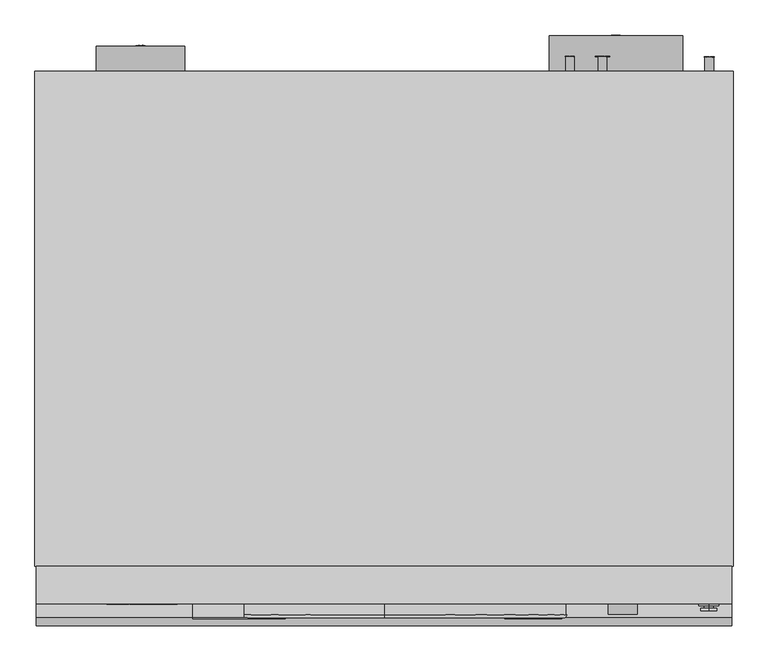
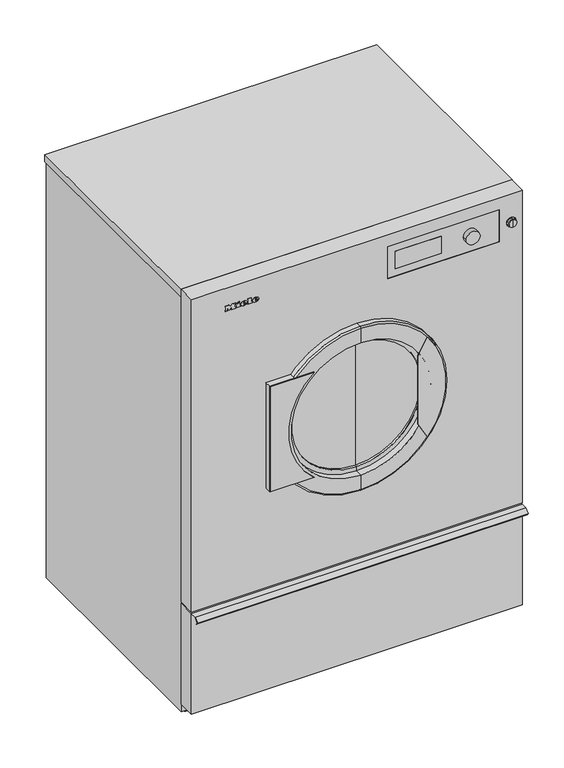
"""IFC4 building model written with IfcOpenShell, lengths in millimetres: proxy geometry, 11795780_EU_PDR528ROPEL_SST : 52528005_EU_11795780_PDR528ROPEL_SST."""

from ifc_helpers import new_model, si_unit, point, frame, frame_2d, origin, origin_with_axes, place, context, project, spatial, polyline, circle_curve, ellipse_curve, trimmed, segment, composite_curve, outline, extrude, faceted_brep, source, transform, mapped, element, save
from ifc_brep_helpers import plane_surface, cylinder_surface, revolved_surface, extruded_surface, advanced_brep


def specialty_equipment_0d103cda(model_context):
    return source(origin(), model_context, "Body", "SolidModel", [
        advanced_brep(
        [(560.0, -992.0, 1533.0), (560.0, -992.0, 1547.0), (560.0, -992.0, 1519.0), (560.0, -988.0, 1519.0), (560.0, -988.0, 1547.0), (560.0, -988.0, 1541.0), (560.0, -988.0, 1525.0), (560.0, -980.0, 1516.0), (560.0, -980.0, 1550.0), (560.0, -980.0, 1533.0), (560.0, -983.0, 1516.0), (560.0, -983.0, 1550.0), (560.0, -983.0, 1525.0), (560.0, -983.0, 1541.0)],
        [
            (0, 1),
            (1, 2, circle_curve(frame((560.0, -992.0, 1533.0), z_axis=(0.0, -1.0, 0.0), x_axis=(0.0, 0.0, 1.0)), 14.0)),
            (2, 0),
            (2, 1, circle_curve(frame((560.0, -992.0, 1533.0), z_axis=(0.0, -1.0, 0.0), x_axis=(0.0, 0.0, 1.0)), 14.0)),
            (3, 4, circle_curve(frame((560.0, -988.0, 1533.0), z_axis=(0.0, 1.0, 0.0), x_axis=(0.0, 0.0, 1.0)), 14.0)),
            (4, 5),
            (5, 6, circle_curve(frame((560.0, -988.0, 1533.0), z_axis=(0.0, -1.0, 0.0), x_axis=(0.0, 0.0, 1.0)), 8.0)),
            (6, 3),
            (7, 8, circle_curve(frame((560.0, -980.0, 1533.0), z_axis=(0.0, 1.0, 0.0), x_axis=(0.0, 0.0, 1.0)), 17.0)),
            (8, 9),
            (9, 7),
            (8, 7, circle_curve(frame((560.0, -980.0, 1533.0), z_axis=(0.0, 1.0, 0.0), x_axis=(0.0, 0.0, 1.0)), 17.0)),
            (10, 11, circle_curve(frame((560.0, -983.0, 1533.0), z_axis=(0.0, 1.0, 0.0), x_axis=(0.0, 0.0, 1.0)), 17.0)),
            (11, 8),
            (7, 10),
            (11, 10, circle_curve(frame((560.0, -983.0, 1533.0), z_axis=(0.0, 1.0, 0.0), x_axis=(0.0, 0.0, 1.0)), 17.0)),
            (12, 13, circle_curve(frame((560.0, -983.0, 1533.0), z_axis=(0.0, 1.0, 0.0), x_axis=(0.0, 0.0, 1.0)), 8.0)),
            (13, 11),
            (10, 12),
            (13, 12, circle_curve(frame((560.0, -983.0, 1533.0), z_axis=(0.0, 1.0, 0.0), x_axis=(0.0, 0.0, 1.0)), 8.0)),
            (5, 13),
            (12, 6),
            (5, 6, circle_curve(frame((560.0, -988.0, 1533.0), z_axis=(0.0, 1.0, 0.0), x_axis=(0.0, 0.0, 1.0)), 8.0)),
            (4, 3, circle_curve(frame((560.0, -988.0, 1533.0), z_axis=(0.0, 1.0, 0.0), x_axis=(0.0, 0.0, 1.0)), 14.0)),
            (1, 4),
            (3, 2),
        ],
        [
            plane_surface(frame((560.0, -992.0, 1533.0), z_axis=(0.0, -1.0, 0.0), x_axis=(0.0, 0.0, 1.0))),
            plane_surface(frame((560.0, -988.0, 1533.0), z_axis=(0.0, 1.0, 0.0), x_axis=(0.0, 0.0, 1.0))),
            plane_surface(frame((560.0, -980.0, 1533.0), z_axis=(0.0, 1.0, 0.0), x_axis=(0.0, 0.0, 1.0))),
            cylinder_surface(frame((560.0, -980.0, 1533.0), z_axis=(0.0, -1.0, 0.0), x_axis=(0.0, 0.0, 1.0)), 17.0),
            plane_surface(frame((560.0, -983.0, 1533.0), z_axis=(0.0, -1.0, 0.0), x_axis=(0.0, 0.0, 1.0))),
            cylinder_surface(frame((560.0, -980.0, 1533.0), z_axis=(0.0, -1.0, 0.0), x_axis=(0.0, 0.0, 1.0)), 8.0),
            cylinder_surface(frame((560.0, -980.0, 1533.0), z_axis=(0.0, -1.0, 0.0), x_axis=(0.0, 0.0, 1.0)), 14.0),
        ],
        [
            (0, [[1, 2, 3]]),
            (0, [[-3, 4, -1]]),
            (1, [[5, 6, 7, 8]]),
            (2, [[9, 10, 11]]),
            (2, [[12, -11, -10]]),
            (3, [[13, 14, -9, 15]]),
            (3, [[16, -15, -12, -14]]),
            (4, [[17, 18, -13, 19]]),
            (4, [[20, -19, -16, -18]]),
            (5, [[-7, 21, -17, 22]]),
            (5, [[23, -22, -20, -21]]),
            (1, [[24, -8, -23, -6]]),
            (6, [[-2, 25, -5, 26]]),
            (6, [[-4, -26, -24, -25]]),
        ],
    ),
        extrude(outline(composite_curve([segment(trimmed(circle_curve(frame_2d((1533.0, 412.0)), 25.0), [point((1533.0, 437.0))], [point((1533.0, 387.0))], False, "CARTESIAN"), True, "CONTINUOUS"), segment(trimmed(circle_curve(frame_2d((1533.0, 412.0)), 25.0), [point((1533.0, 387.0))], [point((1533.0, 437.0))], False, "CARTESIAN"), True, "CONTINUOUS")], self_intersect=False)), frame((0.0, -998.0, 0.0), z_axis=(0.0, 1.0, 0.0), x_axis=(0.0, 0.0, 1.0)), (0.0, 0.0, 1.0), 19.0),
        extrude(outline(polyline([(140.0, -979.0), (306.0, -979.0), (306.0, -980.0), (140.0, -980.0), (140.0, -979.0)])), frame((0.0, 0.0, 1500.0), z_axis=(0.0, 0.0, 1.0), x_axis=(1.0, 0.0, 0.0)), (0.0, 0.0, 1.0), 66.0),
        extrude(outline(polyline([(-980.0, 435.0), (-980.0, 434.0), (-1002.5857864, 434.0), (-1016.6380903, 419.9476961), (-1010.7136039, 413.0357953), (-1011.4728605, 412.3850039), (-1018.0, 420.0), (-1003.0, 435.0), (-980.0, 435.0)])), frame((-600.0, 0.0, 0.0), z_axis=(1.0, 0.0, 0.0), x_axis=(0.0, 1.0, 0.0)), (0.0, 0.0, 1.0), 1200.0),
        advanced_brep(
        [(517.0, -979.0, 1471.0), (113.0, -979.0, 1471.0), (113.0, -980.0, 1471.0), (517.0, -980.0, 1471.0), (600.0, -980.0, 1640.0), (-600.0, -980.0, 1640.0), (-600.0, -980.0, 440.0), (600.0, -980.0, 440.0), (283.0, -980.0, 1025.0), (-283.0, -980.0, 1025.0), (517.0, -980.0, 1594.0), (113.0, -980.0, 1594.0), (-600.0, -915.0, 1640.0), (-600.0, -915.0, 440.0), (600.0, -915.0, 1640.0), (-283.0, -915.0, 1025.0), (283.0, -915.0, 1025.0), (600.0, -915.0, 440.0), (517.0, -979.0, 1594.0), (113.0, -979.0, 1594.0)],
        [
            (0, 1),
            (1, 2),
            (2, 3),
            (3, 0),
            (4, 5),
            (5, 6),
            (6, 7),
            (7, 4),
            (8, 9, circle_curve(frame((0.0, -980.0, 1025.0), z_axis=(0.0, 1.0, 0.0), x_axis=(-1.0, 0.0, 0.0)), 283.0)),
            (9, 8, circle_curve(frame((0.0, -980.0, 1025.0), z_axis=(0.0, 1.0, 0.0), x_axis=(-1.0, 0.0, 0.0)), 283.0)),
            (10, 3),
            (2, 11),
            (11, 10),
            (5, 12),
            (12, 13),
            (13, 6),
            (4, 14),
            (14, 12),
            (15, 9),
            (8, 16),
            (16, 15, circle_curve(frame((0.0, -915.0, 1025.0), z_axis=(0.0, 1.0, 0.0), x_axis=(-1.0, 0.0, 0.0)), 283.0)),
            (14, 17),
            (17, 13),
            (16, 15, circle_curve(frame((0.0, -915.0, 1025.0), z_axis=(0.0, -1.0, 0.0), x_axis=(-1.0, 0.0, 0.0)), 283.0)),
            (7, 17),
            (18, 19),
            (19, 1),
            (0, 18),
            (10, 18),
            (19, 11),
        ],
        [
            plane_surface(frame((517.0, -979.0, 1471.0), z_axis=(0.0, 0.0, 1.0), x_axis=(0.0, -1.0, 0.0))),
            plane_surface(frame((600.0, -980.0, 1640.0), z_axis=(0.0, -1.0, 0.0), x_axis=(0.0, 0.0, 1.0))),
            plane_surface(frame((-600.0, -915.0, 48.0), z_axis=(-1.0, 0.0, 0.0), x_axis=(0.0, -1.0, 0.0))),
            plane_surface(frame((-600.0, -915.0, 1640.0), z_axis=(0.0, 0.0, 1.0), x_axis=(0.0, -1.0, 0.0))),
            revolved_surface(polyline([(-283.0, -915.0, 1025.0), (-283.0, -980.0, 1025.0)]), (0.0, -980.0, 1025.0), (0.0, 1.0, 0.0)),
            plane_surface(frame((600.0, -915.0, 1640.0), z_axis=(0.0, 1.0, 0.0), x_axis=(0.0, 0.0, -1.0))),
            plane_surface(frame((600.0, -915.0, 1640.0), z_axis=(1.0, 0.0, 0.0), x_axis=(0.0, -1.0, 0.0))),
            plane_surface(frame((-600.0, -915.0, 440.0), z_axis=(0.0, 0.0, -1.0), x_axis=(-1.0, 0.0, 0.0))),
            plane_surface(frame((306.0, -979.0, 1566.0), z_axis=(0.0, -1.0, 0.0), x_axis=(0.0, 0.0, -1.0))),
            plane_surface(frame((517.0, -979.0, 1594.0), z_axis=(-1.0, 0.0, 0.0), x_axis=(0.0, -1.0, 0.0))),
            plane_surface(frame((113.0, -979.0, 1471.0), z_axis=(1.0, 0.0, 0.0), x_axis=(0.0, -1.0, 0.0))),
            plane_surface(frame((113.0, -979.0, 1594.0), z_axis=(0.0, 0.0, -1.0), x_axis=(0.0, -1.0, 0.0))),
        ],
        [
            (0, [[1, 2, 3, 4]]),
            (1, [[5, 6, 7, 8], [9, 10], [11, -3, 12, 13]]),
            (2, [[14, 15, 16, -6]]),
            (3, [[-5, 17, 18, -14]]),
            (4, [[19, -9, 20, 21]]),
            (5, [[-18, 22, 23, -15], [-21, 24]]),
            (6, [[-17, -8, 25, -22]]),
            (4, [[-19, -24, -20, -10]]),
            (7, [[-7, -16, -23, -25]]),
            (8, [[26, 27, -1, 28]]),
            (9, [[-28, -4, -11, 29]]),
            (10, [[-27, 30, -12, -2]]),
            (11, [[-26, -29, -13, -30]]),
        ],
    ),
        faceted_brep([(-600.0, -980.0, 48.0), (600.0, -980.0, 48.0), (600.0, -980.0, 435.0), (-600.0, -980.0, 435.0), (-600.0, -915.0, 48.0), (-600.0, -915.0, 435.0), (600.0, -915.0, 48.0), (600.0, -915.0, 435.0)], [[[0, 1, 2, 3]], [[4, 0, 3, 5]], [[6, 4, 5, 7]], [[1, 6, 7, 2]], [[1, 0, 4, 6]], [[3, 2, 7, 5]]]),
        advanced_brep(
        [(-369.6, -981.0, 1556.74), (-369.6, -981.0, 1558.76), (-356.22, -981.0, 1558.76), (-379.5, -981.0, 1558.76), (-374.0, -981.0, 1552.0), (-356.56, -981.0, 1556.74), (-362.6, -981.0, 1556.74), (-367.36, -981.0, 1554.5), (-369.6, -981.0, 1561.32), (-369.6, -981.0, 1563.5), (-366.18, -981.0, 1563.5), (-366.18, -981.0, 1561.32), (-369.6, -980.0, 1556.74), (-367.36, -980.0, 1554.5), (-362.6, -980.0, 1556.74), (-356.56, -980.0, 1556.74), (-374.0, -980.0, 1552.0), (-379.5, -980.0, 1558.76), (-356.22, -980.0, 1558.76), (-369.6, -980.0, 1558.76), (-369.6, -980.0, 1561.32), (-366.18, -980.0, 1561.32), (-366.18, -980.0, 1563.5), (-369.6, -980.0, 1563.5)],
        [
            (0, 1),
            (1, 2),
            (2, 3, ellipse_curve(frame((-367.86, -981.0, 1558.76), z_axis=(0.0, -1.0, 0.0), x_axis=(-1.0, 0.0, 0.0)), 11.64, 9.62)),
            (3, 4, circle_curve(frame((-371.7598909, -981.0, 1559.44), z_axis=(0.0, -1.0, 0.0), x_axis=(0.0, 0.0, -1.0)), 7.7699221)),
            (4, 5, circle_curve(frame((-368.0930161, -981.0, 1564.72), z_axis=(0.0, -1.0, 0.0), x_axis=(0.0, 0.0, -1.0)), 14.0246518)),
            (5, 6),
            (6, 7, circle_curve(frame((-366.3823529, -981.0, 1558.6), z_axis=(0.0, 1.0, 0.0), x_axis=(0.0, 0.0, -1.0)), 4.2149488)),
            (7, 0, circle_curve(frame((-367.36, -981.0, 1556.74), z_axis=(0.0, 1.0, 0.0), x_axis=(0.0, 0.0, -1.0)), 2.24)),
            (8, 9),
            (9, 10, circle_curve(frame((-367.89, -981.0, 1563.5), z_axis=(0.0, 1.0, 0.0), x_axis=(0.0, 0.0, -1.0)), 1.71)),
            (10, 11),
            (11, 8),
            (12, 13, circle_curve(frame((-367.36, -980.0, 1556.74), z_axis=(0.0, -1.0, 0.0), x_axis=(0.0, 0.0, -1.0)), 2.24)),
            (13, 14, circle_curve(frame((-366.3823529, -980.0, 1558.6), z_axis=(0.0, -1.0, 0.0), x_axis=(0.0, 0.0, -1.0)), 4.2149488)),
            (14, 15),
            (15, 16, circle_curve(frame((-368.0930161, -980.0, 1564.72), z_axis=(0.0, 1.0, 0.0), x_axis=(0.0, 0.0, -1.0)), 14.0246518)),
            (16, 17, circle_curve(frame((-371.7598909, -980.0, 1559.44), z_axis=(0.0, 1.0, 0.0), x_axis=(0.0, 0.0, -1.0)), 7.7699221)),
            (17, 18, ellipse_curve(frame((-367.86, -980.0, 1558.76), z_axis=(0.0, 1.0, 0.0), x_axis=(-1.0, 0.0, 0.0)), 11.64, 9.62)),
            (18, 19),
            (19, 12),
            (20, 21),
            (21, 22),
            (22, 23, circle_curve(frame((-367.89, -980.0, 1563.5), z_axis=(0.0, -1.0, 0.0), x_axis=(0.0, 0.0, -1.0)), 1.71)),
            (23, 20),
            (0, 12),
            (19, 1),
            (18, 2),
            (5, 15),
            (14, 6),
            (17, 3),
            (13, 7),
            (16, 4),
            (8, 20),
            (23, 9),
            (22, 10),
            (21, 11),
        ],
        [
            plane_surface(frame((-369.6, -981.0, 1558.76), z_axis=(0.0, -1.0, 0.0), x_axis=(0.0, 0.0, 1.0))),
            plane_surface(frame((-369.6, -980.0, 1558.76), z_axis=(0.0, 1.0, 0.0), x_axis=(0.0, 0.0, -1.0))),
            plane_surface(frame((-369.6, -981.0, 1556.74), z_axis=(1.0, 0.0, 0.0), x_axis=(0.0, 1.0, 0.0))),
            plane_surface(frame((-369.6, -981.0, 1558.76), z_axis=(0.0, 0.0, -1.0), x_axis=(0.0, 1.0, 0.0))),
            plane_surface(frame((-356.56, -981.0, 1556.74), z_axis=(0.0, 0.0, 1.0), x_axis=(0.0, 1.0, 0.0))),
            extruded_surface(trimmed(ellipse_curve(frame((-367.86, -979.0, 1558.76), z_axis=(0.0, -1.0, 0.0), x_axis=(-1.0, 0.0, 0.0)), 11.64, 9.62), [point((-356.22, -979.0, 1558.76))], [point((-379.5, -979.0, 1558.76))], True, "CARTESIAN"), (0.0, -1.0, 0.0), 1.0),
            revolved_surface(polyline([(-366.3823529, -980.0, 1554.3850512), (-366.3823529, -981.0, 1554.3850512)]), (-366.3823529, -980.0, 1558.6), (0.0, 1.0, 0.0)),
            revolved_surface(polyline([(-367.36, -980.0, 1554.5), (-367.36, -981.0, 1554.5)]), (-367.36, -980.0, 1556.74), (0.0, 1.0, 0.0)),
            cylinder_surface(frame((-371.7598909, -980.0, 1559.44), z_axis=(0.0, -1.0, 0.0), x_axis=(0.0, 0.0, -1.0)), 7.7699221),
            cylinder_surface(frame((-368.0930161, -980.0, 1564.72), z_axis=(0.0, -1.0, 0.0), x_axis=(0.0, 0.0, -1.0)), 14.0246518),
            plane_surface(frame((-369.6, -981.0, 1561.32), z_axis=(1.0, 0.0, 0.0), x_axis=(0.0, 1.0, 0.0))),
            revolved_surface(polyline([(-367.89, -980.0, 1561.79), (-367.89, -981.0, 1561.79)]), (-367.89, -980.0, 1563.5), (0.0, 1.0, 0.0)),
            plane_surface(frame((-366.18, -981.0, 1563.5), z_axis=(-1.0, 0.0, 0.0), x_axis=(0.0, 1.0, 0.0))),
            plane_surface(frame((-366.18, -981.0, 1561.32), z_axis=(0.0, 0.0, 1.0), x_axis=(0.0, 1.0, 0.0))),
        ],
        [
            (0, [[1, 2, 3, 4, 5, 6, 7, 8], [9, 10, 11, 12]]),
            (1, [[13, 14, 15, 16, 17, 18, 19, 20], [21, 22, 23, 24]]),
            (2, [[-1, 25, -20, 26]]),
            (3, [[-2, -26, -19, 27]]),
            (4, [[-6, 28, -15, 29]]),
            (5, [[-3, -27, -18, 30]]),
            (6, [[-7, -29, -14, 31]]),
            (7, [[-8, -31, -13, -25]]),
            (8, [[-4, -30, -17, 32]]),
            (9, [[-5, -32, -16, -28]]),
            (10, [[-9, 33, -24, 34]]),
            (11, [[-10, -34, -23, 35]]),
            (12, [[-11, -35, -22, 36]]),
            (13, [[-12, -36, -21, -33]]),
        ],
    ),
        advanced_brep(
        [(-411.34, -981.0, 1556.74), (-411.34, -981.0, 1558.76), (-397.96, -981.0, 1558.76), (-421.24, -981.0, 1558.76), (-415.74, -981.0, 1552.0), (-398.3, -981.0, 1556.74), (-404.34, -981.0, 1556.74), (-409.1, -981.0, 1554.5), (-411.34, -981.0, 1561.32), (-411.34, -981.0, 1563.5), (-407.92, -981.0, 1563.5), (-407.92, -981.0, 1561.32), (-411.34, -980.0, 1556.74), (-409.1, -980.0, 1554.5), (-404.34, -980.0, 1556.74), (-398.3, -980.0, 1556.74), (-415.74, -980.0, 1552.0), (-421.24, -980.0, 1558.76), (-397.96, -980.0, 1558.76), (-411.34, -980.0, 1558.76), (-411.34, -980.0, 1561.32), (-407.92, -980.0, 1561.32), (-407.92, -980.0, 1563.5), (-411.34, -980.0, 1563.5)],
        [
            (0, 1),
            (1, 2),
            (2, 3, ellipse_curve(frame((-409.6, -981.0, 1558.76), z_axis=(0.0, -1.0, 0.0), x_axis=(-1.0, 0.0, 0.0)), 11.64, 9.62)),
            (3, 4, circle_curve(frame((-413.4998909, -981.0, 1559.44), z_axis=(0.0, -1.0, 0.0), x_axis=(0.0, 0.0, -1.0)), 7.7699221)),
            (4, 5, circle_curve(frame((-409.8330161, -981.0, 1564.72), z_axis=(0.0, -1.0, 0.0), x_axis=(0.0, 0.0, -1.0)), 14.0246518)),
            (5, 6),
            (6, 7, circle_curve(frame((-408.1223529, -981.0, 1558.6), z_axis=(0.0, 1.0, 0.0), x_axis=(0.0, 0.0, -1.0)), 4.2149488)),
            (7, 0, circle_curve(frame((-409.1, -981.0, 1556.74), z_axis=(0.0, 1.0, 0.0), x_axis=(0.0, 0.0, -1.0)), 2.24)),
            (8, 9),
            (9, 10, circle_curve(frame((-409.63, -981.0, 1563.5), z_axis=(0.0, 1.0, 0.0), x_axis=(0.0, 0.0, -1.0)), 1.71)),
            (10, 11),
            (11, 8),
            (12, 13, circle_curve(frame((-409.1, -980.0, 1556.74), z_axis=(0.0, -1.0, 0.0), x_axis=(0.0, 0.0, -1.0)), 2.24)),
            (13, 14, circle_curve(frame((-408.1223529, -980.0, 1558.6), z_axis=(0.0, -1.0, 0.0), x_axis=(0.0, 0.0, -1.0)), 4.2149488)),
            (14, 15),
            (15, 16, circle_curve(frame((-409.8330161, -980.0, 1564.72), z_axis=(0.0, 1.0, 0.0), x_axis=(0.0, 0.0, -1.0)), 14.0246518)),
            (16, 17, circle_curve(frame((-413.4998909, -980.0, 1559.44), z_axis=(0.0, 1.0, 0.0), x_axis=(0.0, 0.0, -1.0)), 7.7699221)),
            (17, 18, ellipse_curve(frame((-409.6, -980.0, 1558.76), z_axis=(0.0, 1.0, 0.0), x_axis=(-1.0, 0.0, 0.0)), 11.64, 9.62)),
            (18, 19),
            (19, 12),
            (20, 21),
            (21, 22),
            (22, 23, circle_curve(frame((-409.63, -980.0, 1563.5), z_axis=(0.0, -1.0, 0.0), x_axis=(0.0, 0.0, -1.0)), 1.71)),
            (23, 20),
            (0, 12),
            (19, 1),
            (18, 2),
            (5, 15),
            (14, 6),
            (17, 3),
            (13, 7),
            (16, 4),
            (8, 20),
            (23, 9),
            (22, 10),
            (21, 11),
        ],
        [
            plane_surface(frame((-411.34, -981.0, 1558.76), z_axis=(0.0, -1.0, 0.0), x_axis=(0.0, 0.0, 1.0))),
            plane_surface(frame((-411.34, -980.0, 1558.76), z_axis=(0.0, 1.0, 0.0), x_axis=(0.0, 0.0, -1.0))),
            plane_surface(frame((-411.34, -981.0, 1556.74), z_axis=(1.0, 0.0, 0.0), x_axis=(0.0, 1.0, 0.0))),
            plane_surface(frame((-411.34, -981.0, 1558.76), z_axis=(0.0, 0.0, -1.0), x_axis=(0.0, 1.0, 0.0))),
            plane_surface(frame((-398.3, -981.0, 1556.74), z_axis=(0.0, 0.0, 1.0), x_axis=(0.0, 1.0, 0.0))),
            extruded_surface(trimmed(ellipse_curve(frame((-409.6, -979.0, 1558.76), z_axis=(0.0, -1.0, 0.0), x_axis=(-1.0, 0.0, 0.0)), 11.64, 9.62), [point((-397.96, -979.0, 1558.76))], [point((-421.24, -979.0, 1558.76))], True, "CARTESIAN"), (0.0, -1.0, 0.0), 1.0),
            revolved_surface(polyline([(-408.1223529, -980.0, 1554.3850512), (-408.1223529, -981.0, 1554.3850512)]), (-408.1223529, -980.0, 1558.6), (0.0, 1.0, 0.0)),
            revolved_surface(polyline([(-409.1, -980.0, 1554.5), (-409.1, -981.0, 1554.5)]), (-409.1, -980.0, 1556.74), (0.0, 1.0, 0.0)),
            cylinder_surface(frame((-413.4998909, -980.0, 1559.44), z_axis=(0.0, -1.0, 0.0), x_axis=(0.0, 0.0, -1.0)), 7.7699221),
            cylinder_surface(frame((-409.8330161, -980.0, 1564.72), z_axis=(0.0, -1.0, 0.0), x_axis=(0.0, 0.0, -1.0)), 14.0246518),
            plane_surface(frame((-411.34, -981.0, 1561.32), z_axis=(1.0, 0.0, 0.0), x_axis=(0.0, 1.0, 0.0))),
            revolved_surface(polyline([(-409.63, -980.0, 1561.79), (-409.63, -981.0, 1561.79)]), (-409.63, -980.0, 1563.5), (0.0, 1.0, 0.0)),
            plane_surface(frame((-407.92, -981.0, 1563.5), z_axis=(-1.0, 0.0, 0.0), x_axis=(0.0, 1.0, 0.0))),
            plane_surface(frame((-407.92, -981.0, 1561.32), z_axis=(0.0, 0.0, 1.0), x_axis=(0.0, 1.0, 0.0))),
        ],
        [
            (0, [[1, 2, 3, 4, 5, 6, 7, 8], [9, 10, 11, 12]]),
            (1, [[13, 14, 15, 16, 17, 18, 19, 20], [21, 22, 23, 24]]),
            (2, [[-1, 25, -20, 26]]),
            (3, [[-2, -26, -19, 27]]),
            (4, [[-6, 28, -15, 29]]),
            (5, [[-3, -27, -18, 30]]),
            (6, [[-7, -29, -14, 31]]),
            (7, [[-8, -31, -13, -25]]),
            (8, [[-4, -30, -17, 32]]),
            (9, [[-5, -32, -16, -28]]),
            (10, [[-9, 33, -24, 34]]),
            (11, [[-10, -34, -23, 35]]),
            (12, [[-11, -35, -22, 36]]),
            (13, [[-12, -36, -21, -33]]),
        ],
    ),
        extrude(outline(polyline([(1570.82, -433.2), (1567.58, -431.68), (1570.74, -424.9), (1573.98, -426.4), (1570.82, -433.2)])), frame((0.0, -981.0, 0.0), z_axis=(0.0, 1.0, 0.0), x_axis=(0.0, 0.0, 1.0)), (0.0, 0.0, 1.0), 1.0),
        extrude(outline(polyline([(1567.14, -438.14), (1563.56, -438.14), (1563.56, -435.76), (1555.36, -435.76), (1555.36, -438.14), (1552.0, -438.14), (1552.0, -422.36), (1555.36, -422.36), (1555.36, -424.68), (1567.14, -424.68), (1567.14, -438.14)])), frame((0.0, -981.0, 0.0), z_axis=(0.0, 1.0, 0.0), x_axis=(0.0, 0.0, 1.0)), (0.0, 0.0, 1.0), 1.0),
        extrude(outline(polyline([(1568.74, -396.84), (1568.74, -394.44), (1555.36, -394.44), (1555.36, -396.84), (1552.0, -396.84), (1552.0, -380.62), (1555.36, -380.62), (1555.36, -383.08), (1572.0, -383.08), (1572.0, -396.84), (1568.74, -396.84)])), frame((0.0, -981.0, 0.0), z_axis=(0.0, 1.0, 0.0), x_axis=(0.0, 0.0, 1.0)), (0.0, 0.0, 1.0), 1.0),
        extrude(outline(polyline([(1568.74, -478.0), (1568.74, -475.58), (1555.36, -475.58), (1555.36, -478.0), (1552.0, -478.0), (1552.0, -469.2), (1555.36, -469.2), (1555.36, -471.6), (1563.7911247, -471.6), (1552.0, -462.66), (1564.3152223, -453.68), (1555.36, -453.68), (1555.36, -456.14), (1552.0, -456.14), (1552.0, -440.18), (1555.36, -440.18), (1555.36, -442.72), (1568.74, -442.72), (1568.74, -440.18), (1572.0, -440.18), (1572.0, -452.36), (1564.5, -458.2), (1572.0, -464.06), (1572.0, -478.0), (1568.74, -478.0)])), frame((0.0, -981.0, 0.0), z_axis=(0.0, 1.0, 0.0), x_axis=(0.0, 0.0, 1.0)), (0.0, 0.0, 1.0), 1.0),
        extrude(outline(composite_curve([segment(polyline([(1227.0, -169.976469), (1227.0, -330.0), (823.0, -330.0), (823.0, -169.976469)]), True, "CONTINUOUS"), segment(trimmed(circle_curve(frame_2d((1025.0, 0.0)), 264.0), [point((823.0, -169.976469))], [point((1227.0, -169.976469))], True, "CARTESIAN"), True, "CONTINUOUS")], self_intersect=False)), frame((0.0, -1006.0, 0.0), z_axis=(0.0, 1.0, 0.0), x_axis=(0.0, 0.0, 1.0)), (0.0, 0.0, 1.0), 2.0),
        extrude(outline(composite_curve([segment(trimmed(circle_curve(frame_2d((1025.0, 0.0)), 308.0), [point((834.0, 241.6257437))], [point((1216.0, 241.6257437))], False, "CARTESIAN"), True, "CONTINUOUS"), segment(polyline([(1216.0, 241.6257437), (1157.7585035, 208.0), (892.2414965, 208.0), (834.0, 241.6257437)]), True, "CONTINUOUS")], self_intersect=False)), frame((0.0, -1006.0, 0.0), z_axis=(0.0, 1.0, 0.0), x_axis=(0.0, 0.0, 1.0)), (0.0, 0.0, 1.0), 2.0),
        extrude(outline(composite_curve([segment(polyline([(823.0, -330.0), (823.0, -241.7043649)]), True, "CONTINUOUS"), segment(trimmed(circle_curve(frame_2d((1025.0, 0.0)), 315.0), [point((823.0, -241.7043649))], [point((1227.0, -241.7043649))], True, "CARTESIAN"), True, "CONTINUOUS"), segment(polyline([(1227.0, -241.7043649), (1227.0, -330.0), (823.0, -330.0)]), True, "CONTINUOUS")], self_intersect=False)), frame((0.0, -1004.0, 0.0), z_axis=(0.0, 1.0, 0.0), x_axis=(0.0, 0.0, 1.0)), (0.0, 0.0, 1.0), 24.0),
        advanced_brep(
        [(0.0, -978.0, 771.0), (0.0, -978.0, 1279.0), (0.0, -970.0, 1279.0), (0.0, -970.0, 771.0), (0.0, -978.0, 788.0), (0.0, -978.0, 1262.0), (0.0, -970.0, 788.0), (0.0, -970.0, 1262.0)],
        [
            (0, 1, circle_curve(frame((0.0, -978.0, 1025.0), z_axis=(0.0, 1.0, 0.0), x_axis=(0.0, 0.0, 1.0)), 254.0)),
            (1, 2),
            (2, 3, circle_curve(frame((0.0, -970.0, 1025.0), z_axis=(0.0, -1.0, 0.0), x_axis=(0.0, 0.0, 1.0)), 254.0)),
            (3, 0),
            (1, 0, circle_curve(frame((0.0, -978.0, 1025.0), z_axis=(0.0, 1.0, 0.0), x_axis=(0.0, 0.0, 1.0)), 254.0)),
            (3, 2, circle_curve(frame((0.0, -970.0, 1025.0), z_axis=(0.0, -1.0, 0.0), x_axis=(0.0, 0.0, 1.0)), 254.0)),
            (4, 5, circle_curve(frame((0.0, -978.0, 1025.0), z_axis=(0.0, 1.0, 0.0), x_axis=(0.0, 0.0, 1.0)), 237.0)),
            (5, 1),
            (0, 4),
            (5, 4, circle_curve(frame((0.0, -978.0, 1025.0), z_axis=(0.0, 1.0, 0.0), x_axis=(0.0, 0.0, 1.0)), 237.0)),
            (6, 7, circle_curve(frame((0.0, -970.0, 1025.0), z_axis=(0.0, 1.0, 0.0), x_axis=(0.0, 0.0, 1.0)), 237.0)),
            (7, 5),
            (4, 6),
            (7, 6, circle_curve(frame((0.0, -970.0, 1025.0), z_axis=(0.0, 1.0, 0.0), x_axis=(0.0, 0.0, 1.0)), 237.0)),
            (2, 7),
            (6, 3),
        ],
        [
            cylinder_surface(frame((0.0, -2408.7556811, 1025.0), z_axis=(0.0, -1.0, 0.0), x_axis=(0.0, 0.0, 1.0)), 254.0),
            plane_surface(frame((0.0, -978.0, 1025.0), z_axis=(0.0, -1.0, 0.0), x_axis=(0.0, 0.0, 1.0))),
            revolved_surface(polyline([(0.0, -978.0, 1262.0), (0.0, -970.0, 1262.0)]), (0.0, -2408.7556811, 1025.0), (0.0, -1.0, 0.0)),
            plane_surface(frame((0.0, -970.0, 1025.0), z_axis=(0.0, 1.0, 0.0), x_axis=(0.0, 0.0, 1.0))),
        ],
        [
            (0, [[1, 2, 3, 4]]),
            (0, [[5, -4, 6, -2]]),
            (1, [[7, 8, -1, 9]]),
            (1, [[10, -9, -5, -8]]),
            (2, [[11, 12, -7, 13]]),
            (2, [[14, -13, -10, -12]]),
            (3, [[-3, 15, -11, 16]]),
            (3, [[-6, -16, -14, -15]]),
        ],
    ),
        advanced_brep(
        [(0.0, -970.0, 1025.0), (0.0, -970.0, 1279.0), (0.0, -970.0, 771.0), (0.0, -950.0, 771.0), (0.0, -950.0, 1279.0), (0.0, -950.0, 1025.0)],
        [
            (0, 1),
            (1, 2, circle_curve(frame((0.0, -970.0, 1025.0), z_axis=(0.0, -1.0, 0.0), x_axis=(0.0, 0.0, 1.0)), 254.0)),
            (2, 0),
            (2, 1, circle_curve(frame((0.0, -970.0, 1025.0), z_axis=(0.0, -1.0, 0.0), x_axis=(0.0, 0.0, 1.0)), 254.0)),
            (3, 4, circle_curve(frame((0.0, -950.0, 1025.0), z_axis=(0.0, 1.0, 0.0), x_axis=(0.0, 0.0, 1.0)), 254.0)),
            (4, 5),
            (5, 3),
            (4, 3, circle_curve(frame((0.0, -950.0, 1025.0), z_axis=(0.0, 1.0, 0.0), x_axis=(0.0, 0.0, 1.0)), 254.0)),
            (1, 4),
            (3, 2),
        ],
        [
            plane_surface(frame((0.0, -970.0, 1025.0), z_axis=(0.0, -1.0, 0.0), x_axis=(0.0, 0.0, 1.0))),
            plane_surface(frame((0.0, -950.0, 1025.0), z_axis=(0.0, 1.0, 0.0), x_axis=(0.0, 0.0, 1.0))),
            cylinder_surface(frame((0.0, -2408.7556811, 1025.0), z_axis=(0.0, -1.0, 0.0), x_axis=(0.0, 0.0, 1.0)), 254.0),
        ],
        [
            (0, [[1, 2, 3]]),
            (0, [[-3, 4, -1]]),
            (1, [[5, 6, 7]]),
            (1, [[8, -7, -6]]),
            (2, [[-2, 9, -5, 10]]),
            (2, [[-4, -10, -8, -9]]),
        ],
    ),
        advanced_brep(
        [(0.0, -999.0, 710.0), (0.0, -999.0, 1340.0), (0.0, -980.0, 1340.0), (0.0, -980.0, 710.0), (0.0, -1004.0, 715.0), (0.0, -1004.0, 1335.0), (0.0, -1004.0, 771.0), (0.0, -1004.0, 1279.0), (0.0, -950.0, 771.0), (0.0, -950.0, 1279.0), (0.0, -950.0, 755.9892297), (0.0, -950.0, 1294.0107703), (0.0, -980.0, 742.0), (0.0, -980.0, 1308.0)],
        [
            (0, 1, circle_curve(frame((0.0, -999.0, 1025.0), z_axis=(0.0, 1.0, 0.0), x_axis=(0.0, 0.0, 1.0)), 315.0)),
            (1, 2),
            (2, 3, circle_curve(frame((0.0, -980.0, 1025.0), z_axis=(0.0, -1.0, 0.0), x_axis=(0.0, 0.0, 1.0)), 315.0)),
            (3, 0),
            (1, 0, circle_curve(frame((0.0, -999.0, 1025.0), z_axis=(0.0, 1.0, 0.0), x_axis=(0.0, 0.0, 1.0)), 315.0)),
            (3, 2, circle_curve(frame((0.0, -980.0, 1025.0), z_axis=(0.0, -1.0, 0.0), x_axis=(0.0, 0.0, 1.0)), 315.0)),
            (4, 5, circle_curve(frame((0.0, -1004.0, 1025.0), z_axis=(0.0, 1.0, 0.0), x_axis=(0.0, 0.0, 1.0)), 310.0)),
            (5, 1, circle_curve(frame((0.0, -999.0, 1335.0), z_axis=(-1.0, 0.0, 0.0), x_axis=(0.0, 1.0, 0.0)), 5.0)),
            (0, 4, circle_curve(frame((0.0, -999.0, 715.0), z_axis=(-1.0, 0.0, 0.0), x_axis=(0.0, 1.0, 0.0)), 5.0)),
            (5, 4, circle_curve(frame((0.0, -1004.0, 1025.0), z_axis=(0.0, 1.0, 0.0), x_axis=(0.0, 0.0, 1.0)), 310.0)),
            (6, 7, circle_curve(frame((0.0, -1004.0, 1025.0), z_axis=(0.0, 1.0, 0.0), x_axis=(0.0, 0.0, 1.0)), 254.0)),
            (7, 5),
            (4, 6),
            (7, 6, circle_curve(frame((0.0, -1004.0, 1025.0), z_axis=(0.0, 1.0, 0.0), x_axis=(0.0, 0.0, 1.0)), 254.0)),
            (8, 9, circle_curve(frame((0.0, -950.0, 1025.0), z_axis=(0.0, 1.0, 0.0), x_axis=(0.0, 0.0, 1.0)), 254.0)),
            (9, 7),
            (6, 8),
            (9, 8, circle_curve(frame((0.0, -950.0, 1025.0), z_axis=(0.0, 1.0, 0.0), x_axis=(0.0, 0.0, 1.0)), 254.0)),
            (10, 11, circle_curve(frame((0.0, -950.0, 1025.0), z_axis=(0.0, 1.0, 0.0), x_axis=(0.0, 0.0, 1.0)), 269.0107703)),
            (11, 9),
            (8, 10),
            (11, 10, circle_curve(frame((0.0, -950.0, 1025.0), z_axis=(0.0, 1.0, 0.0), x_axis=(0.0, 0.0, 1.0)), 269.0107703)),
            (12, 13, circle_curve(frame((0.0, -980.0, 1025.0), z_axis=(0.0, 1.0, 0.0), x_axis=(0.0, 0.0, 1.0)), 283.0)),
            (13, 11),
            (10, 12),
            (13, 12, circle_curve(frame((0.0, -980.0, 1025.0), z_axis=(0.0, 1.0, 0.0), x_axis=(0.0, 0.0, 1.0)), 283.0)),
            (2, 13),
            (12, 3),
        ],
        [
            cylinder_surface(frame((0.0, -2353.7556811, 1025.0), z_axis=(0.0, -1.0, 0.0), x_axis=(0.0, 0.0, 1.0)), 315.0),
            revolved_surface(trimmed(ellipse_curve(frame((0.0, -999.0, 1335.0), z_axis=(1.0, 0.0, 0.0), x_axis=(0.0, 1.0, 0.0)), 5.0, 5.0), [point((0.0, -999.0, 1340.0))], [point((0.0, -1004.0, 1335.0))], True, "CARTESIAN"), (0.0, -2353.7556811, 1025.0), (0.0, -1.0, 0.0)),
            plane_surface(frame((0.0, -1004.0, 1025.0), z_axis=(0.0, -1.0, 0.0), x_axis=(0.0, 0.0, 1.0))),
            revolved_surface(polyline([(0.0, -1004.0, 1279.0), (0.0, -950.0, 1279.0)]), (0.0, -2353.7556811, 1025.0), (0.0, -1.0, 0.0)),
            plane_surface(frame((0.0, -950.0, 1025.0), z_axis=(0.0, 1.0, 0.0), x_axis=(0.0, 0.0, 1.0))),
            revolved_surface(polyline([(0.0, -950.0, 1294.0107703), (0.0, -980.0, 1308.0)]), (0.0, -2353.7556811, 1025.0), (0.0, -1.0, 0.0)),
            plane_surface(frame((0.0, -980.0, 1025.0), z_axis=(0.0, 1.0, 0.0), x_axis=(0.0, 0.0, 1.0))),
        ],
        [
            (0, [[1, 2, 3, 4]]),
            (0, [[5, -4, 6, -2]]),
            (1, [[7, 8, -1, 9]]),
            (1, [[10, -9, -5, -8]]),
            (2, [[11, 12, -7, 13]]),
            (2, [[14, -13, -10, -12]]),
            (3, [[15, 16, -11, 17]]),
            (3, [[18, -17, -14, -16]]),
            (4, [[19, 20, -15, 21]]),
            (4, [[22, -21, -18, -20]]),
            (5, [[23, 24, -19, 25]]),
            (5, [[26, -25, -22, -24]]),
            (6, [[-3, 27, -23, 28]]),
            (6, [[-6, -28, -26, -27]]),
        ],
    ),
        extrude(outline(composite_curve([segment(trimmed(circle_curve(frame_2d((1560.0, 321.0)), 7.5), [point((1560.0, 328.5))], [point((1560.0, 313.5))], False, "CARTESIAN"), True, "CONTINUOUS"), segment(trimmed(circle_curve(frame_2d((1560.0, 321.0)), 7.5), [point((1560.0, 313.5))], [point((1560.0, 328.5))], False, "CARTESIAN"), True, "CONTINUOUS")], self_intersect=False)), frame((0.0, -67.0, 0.0), z_axis=(0.0, 1.0, 0.0), x_axis=(0.0, 0.0, 1.0)), (0.0, 0.0, 1.0), 30.0),
        extrude(outline(composite_curve([segment(polyline([(30.0, 567.9170113), (30.0, 569.1620921), (40.0559489, 569.1620921), (40.0559489, 565.453394)]), True, "CONTINUOUS"), segment(trimmed(circle_curve(frame_2d((37.0741886, 565.453394)), 2.9817603), [point((40.0559489, 565.453394))], [point((34.0924283, 565.453394))], False, "CARTESIAN"), True, "CONTINUOUS"), segment(polyline([(34.0924283, 565.453394), (34.0924283, 567.9170113), (30.0, 567.9170113)]), True, "CONTINUOUS")], self_intersect=False), holes=[composite_curve([segment(polyline([(35.2383237, 567.9170113), (35.2383237, 565.0679492)]), True, "CONTINUOUS"), segment(trimmed(circle_curve(frame_2d((37.0536399, 565.0679492)), 1.8153163), [point((35.2383237, 565.0679492))], [point((38.8689562, 565.0679492))], True, "CARTESIAN"), True, "CONTINUOUS"), segment(polyline([(38.8689562, 565.0679492), (38.8689562, 567.9170113), (35.2383237, 567.9170113)]), True, "CONTINUOUS")], self_intersect=False)]), frame((0.0, -37.0, 0.0), z_axis=(0.0, 1.0, 0.0), x_axis=(0.0, 0.0, 1.0)), (0.0, 0.0, 1.0), 1.0),
        extrude(outline(polyline([(40.0480947, 557.0745188), (40.0480947, 555.9891006), (30.0, 551.9827579), (30.0, 553.3125422), (33.1377792, 554.4546004), (33.1377792, 558.5944446), (30.0, 559.7365028), (30.0, 561.0811065), (40.0480947, 557.0745188)]), holes=[polyline([(34.3904393, 558.127462), (34.3904393, 554.9161749), (38.8019088, 556.5218184), (34.3904393, 558.127462)])]), frame((0.0, -37.0, 0.0), z_axis=(0.0, 1.0, 0.0), x_axis=(0.0, 0.0, 1.0)), (0.0, 0.0, 1.0), 1.0),
        extrude(outline(composite_curve([segment(trimmed(circle_curve(frame_2d((35.0, 561.0)), 7.5), [point((35.0, 568.5))], [point((35.0, 553.5))], False, "CARTESIAN"), True, "CONTINUOUS"), segment(trimmed(circle_curve(frame_2d((35.0, 561.0)), 7.5), [point((35.0, 553.5))], [point((35.0, 568.5))], False, "CARTESIAN"), True, "CONTINUOUS")], self_intersect=False)), frame((0.0, -67.0, 0.0), z_axis=(0.0, 1.0, 0.0), x_axis=(0.0, 0.0, 1.0)), (0.0, 0.0, 1.0), 30.0),
        extrude(outline(polyline([(1346.5, 401.0), (1346.5, 429.0), (1371.5, 415.0), (1346.5, 401.0)]), holes=[polyline([(1363.5, 414.2030882), (1363.5, 415.6042015), (1355.5, 419.0), (1357.4089025, 414.7125348), (1351.6312546, 415.5245303), (1351.6312546, 416.7258559), (1349.5, 415.0), (1351.6312546, 412.8687454), (1351.6312546, 414.10588), (1359.5, 413.0), (1357.9074176, 416.5769985), (1363.5, 414.2030882)])]), frame((0.0, -67.0, 0.0), z_axis=(0.0, 1.0, 0.0), x_axis=(0.0, 0.0, 1.0)), (0.0, 0.0, 1.0), 2.0),
        extrude(outline(polyline([(265.0, -66.0), (565.0, -66.0), (565.0, -67.0), (265.0, -67.0), (265.0, -66.0)])), frame((0.0, 0.0, 1263.0), z_axis=(0.0, 0.0, 1.0), x_axis=(1.0, 0.0, 0.0)), (0.0, 0.0, 1.0), 192.0),
        extrude(outline(polyline([(1569.0433, 369.2153208), (1569.0433, 368.1378525), (1559.0, 364.1189779), (1559.0, 365.4639242), (1562.1372946, 366.6205263), (1562.1372946, 370.7554837), (1559.0, 371.8973656), (1559.0, 373.2337583), (1569.0433, 369.2153208)]), holes=[polyline([(1563.4013402, 367.0865322), (1567.781267, 368.7012458), (1563.4013402, 370.2954088), (1563.4013402, 367.0865322)])]), frame((0.0, -37.0, 0.0), z_axis=(0.0, 1.0, 0.0), x_axis=(0.0, 0.0, 1.0)), (0.0, 0.0, 1.0), 1.0),
        extrude(outline(composite_curve([segment(polyline([(1562.470785, 389.4938385), (1562.470785, 388.2179676), (1561.1559037, 387.8656462)]), True, "CONTINUOUS"), segment(trimmed(circle_curve(frame_2d((1564.4593233, 385.1115013)), 4.300918), [point((1561.1559037, 387.8656462))], [point((1560.3250156, 383.9260076))], True, "CARTESIAN"), True, "CONTINUOUS"), segment(trimmed(circle_curve(frame_2d((1561.734987, 384.3303104)), 1.4667925), [point((1560.3250156, 383.9260076))], [point((1563.1449584, 383.9260076))], True, "CARTESIAN"), True, "CONTINUOUS"), segment(polyline([(1563.1449584, 383.9260076), (1564.231171, 387.7140811)]), True, "CONTINUOUS"), segment(trimmed(circle_curve(frame_2d((1566.4909936, 386.5518818)), 2.5411622), [point((1564.231171, 387.7140811))], [point((1568.8538919, 387.4868775))], False, "CARTESIAN"), True, "CONTINUOUS"), segment(trimmed(circle_curve(frame_2d((1564.351263, 385.7051933)), 4.8423203), [point((1568.8538919, 387.4868775))], [point((1567.7883856, 382.294291))], False, "CARTESIAN"), True, "CONTINUOUS"), segment(polyline([(1567.7883856, 382.294291), (1566.2342092, 381.7893085), (1566.2342092, 383.0353588), (1567.5078172, 383.7125482)]), True, "CONTINUOUS"), segment(trimmed(circle_curve(frame_2d((1563.9138581, 385.5385426)), 4.0312278), [point((1567.5078172, 383.7125482))], [point((1567.5078172, 387.364537))], True, "CARTESIAN"), True, "CONTINUOUS"), segment(trimmed(circle_curve(frame_2d((1566.5174829, 386.8613747)), 1.110826), [point((1567.5078172, 387.364537))], [point((1565.5271485, 387.364537))], True, "CARTESIAN"), True, "CONTINUOUS"), segment(polyline([(1565.5271485, 387.364537), (1564.2661255, 383.2399165)]), True, "CONTINUOUS"), segment(trimmed(circle_curve(frame_2d((1561.8062734, 384.4332402)), 2.7340252), [point((1564.2661255, 383.2399165))], [point((1559.2691713, 383.414414))], False, "CARTESIAN"), True, "CONTINUOUS"), segment(trimmed(circle_curve(frame_2d((1563.9175863, 385.2810818)), 5.0092125), [point((1559.2691713, 383.414414))], [point((1560.5341211, 388.974911))], False, "CARTESIAN"), True, "CONTINUOUS"), segment(polyline([(1560.5341211, 388.974911), (1562.470785, 389.4938385)]), True, "CONTINUOUS")], self_intersect=False)), frame((0.0, -37.0, 0.0), z_axis=(0.0, 1.0, 0.0), x_axis=(0.0, 0.0, 1.0)), (0.0, 0.0, 1.0), 1.0),
        extrude(outline(polyline([(1569.0713351, 378.4586146), (1560.2690686, 378.4586146), (1560.2690686, 373.5085348), (1559.0, 373.5085348), (1559.0, 379.7337077), (1569.0713351, 379.7337077), (1569.0713351, 378.4586146)])), frame((0.0, -37.0, 0.0), z_axis=(0.0, 1.0, 0.0), x_axis=(0.0, 0.0, 1.0)), (0.0, 0.0, 1.0), 1.0),
        extrude(outline(composite_curve([segment(trimmed(circle_curve(frame_2d((1564.0, 377.0)), 7.5), [point((1564.0, 384.5))], [point((1564.0, 369.5))], False, "CARTESIAN"), True, "CONTINUOUS"), segment(trimmed(circle_curve(frame_2d((1564.0, 377.0)), 7.5), [point((1564.0, 369.5))], [point((1564.0, 384.5))], False, "CARTESIAN"), True, "CONTINUOUS")], self_intersect=False)), frame((0.0, -67.0, 0.0), z_axis=(0.0, 1.0, 0.0), x_axis=(0.0, 0.0, 1.0)), (0.0, 0.0, 1.0), 30.0),
        extrude(outline(polyline([(1563.7785937, 321.1830535), (1563.7785937, 327.1302613), (1560.8114328, 327.1302613), (1560.8114328, 321.4649743), (1559.5394813, 321.4649743), (1559.5394813, 327.1302613), (1556.2586296, 327.1302613), (1556.2586296, 321.0), (1555.0, 321.0), (1555.0, 328.3864142), (1565.048592, 328.3864142), (1565.048592, 321.1830535), (1563.7785937, 321.1830535)])), frame((0.0, -37.0, 0.0), z_axis=(0.0, 1.0, 0.0), x_axis=(0.0, 0.0, 1.0)), (0.0, 0.0, 1.0), 1.0),
        extrude(outline(polyline([(1565.0378903, 317.8770486), (1556.2773599, 317.8770486), (1556.2773599, 312.8505836), (1555.0, 312.8505836), (1555.0, 319.1214049), (1565.0378903, 319.1214049), (1565.0378903, 317.8770486)])), frame((0.0, -37.0, 0.0), z_axis=(0.0, 1.0, 0.0), x_axis=(0.0, 0.0, 1.0)), (0.0, 0.0, 1.0), 1.0),
        extrude(outline(polyline([(120.0, -421.877563), (130.0496585, -421.877563), (130.0496585, -423.1806934), (121.275504, -423.1806934), (121.275504, -428.1806934), (120.0, -428.1806934), (120.0, -421.877563)])), frame((0.0, -18.0, 0.0), z_axis=(0.0, 1.0, 0.0), x_axis=(0.0, 0.0, 1.0)), (0.0, 0.0, 1.0), 1.0),
        extrude(outline(polyline([(119.9999165, -411.4555357), (130.0528112, -415.4635728), (130.0528112, -416.5356667), (120.0, -420.5447895), (120.0, -419.2103806), (123.1437098, -418.0661639), (123.1437098, -413.9273707), (119.9999165, -412.7831236), (119.9999165, -411.4555357)]), holes=[polyline([(124.4356526, -414.3687789), (124.4356526, -417.6012165), (128.9012546, -415.9941251), (124.4356526, -414.3687789)])]), frame((0.0, -18.0, 0.0), z_axis=(0.0, 1.0, 0.0), x_axis=(0.0, 0.0, 1.0)), (0.0, 0.0, 1.0), 1.0),
        extrude(outline(composite_curve([segment(trimmed(circle_curve(frame_2d((125.0, -420.0)), 76.0), [point((125.0, -344.0))], [point((125.0, -496.0))], False, "CARTESIAN"), True, "CONTINUOUS"), segment(trimmed(circle_curve(frame_2d((125.0, -420.0)), 76.0), [point((125.0, -496.0))], [point((125.0, -344.0))], False, "CARTESIAN"), True, "CONTINUOUS")], self_intersect=False)), frame((0.0, -67.0, 0.0), z_axis=(0.0, 1.0, 0.0), x_axis=(0.0, 0.0, 1.0)), (0.0, 0.0, 1.0), 49.0),
        extrude(outline(polyline([(308.7962767, 407.1350775), (310.0491429, 407.1350775), (310.0491429, 400.0840805), (308.7962767, 400.0840805), (301.2670444, 406.1811326), (301.2670444, 399.9029184), (300.0, 399.9029184), (300.0, 407.783487), (301.2670444, 407.783487), (308.7962767, 401.686435), (308.7962767, 407.1350775)])), frame((0.0, 0.0, 0.0), z_axis=(0.0, 1.0, 0.0), x_axis=(0.0, 0.0, 1.0)), (0.0, 0.0, 1.0), 1.0),
        extrude(outline(polyline([(300.0, 398.5052372), (310.0491429, 398.5052372), (310.0491429, 397.2673426), (301.2670444, 397.2673426), (301.2670444, 392.2673426), (300.0, 392.2673426), (300.0, 398.5052372)])), frame((0.0, 0.0, 0.0), z_axis=(0.0, 1.0, 0.0), x_axis=(0.0, 0.0, 1.0)), (0.0, 0.0, 1.0), 1.0),
        extrude(outline(composite_curve([segment(trimmed(circle_curve(frame_2d((305.0, 400.0)), 115.0), [point((305.0, 515.0))], [point((305.0, 285.0))], False, "CARTESIAN"), True, "CONTINUOUS"), segment(trimmed(circle_curve(frame_2d((305.0, 400.0)), 115.0), [point((305.0, 285.0))], [point((305.0, 515.0))], False, "CARTESIAN"), True, "CONTINUOUS")], self_intersect=False)), frame((0.0, -67.0, 0.0), z_axis=(0.0, 1.0, 0.0), x_axis=(0.0, 0.0, 1.0)), (0.0, 0.0, 1.0), 67.0),
        advanced_brep(
        [(600.0, -67.0, 1612.0), (-600.0, -67.0, 1612.0), (-600.0, -915.0, 1612.0), (600.0, -915.0, 1612.0), (600.0, -67.0, 18.0), (600.0, -915.0, 18.0), (-600.0, -915.0, 18.0), (-600.0, -67.0, 18.0), (551.0, -915.0, 1025.0), (-551.0, -915.0, 1025.0), (551.0, -370.0, 1025.0), (-551.0, -370.0, 1025.0)],
        [
            (0, 1),
            (1, 2),
            (2, 3),
            (3, 0),
            (4, 5),
            (5, 6),
            (6, 7),
            (7, 4),
            (0, 4),
            (7, 1),
            (6, 2),
            (5, 3),
            (8, 9, circle_curve(frame((0.0, -915.0, 1025.0), z_axis=(0.0, 1.0, 0.0), x_axis=(-1.0, 0.0, 0.0)), 551.0)),
            (9, 8, circle_curve(frame((0.0, -915.0, 1025.0), z_axis=(0.0, 1.0, 0.0), x_axis=(-1.0, 0.0, 0.0)), 551.0)),
            (10, 11, circle_curve(frame((0.0, -370.0, 1025.0), z_axis=(0.0, -1.0, 0.0), x_axis=(-1.0, 0.0, 0.0)), 551.0)),
            (11, 10, circle_curve(frame((0.0, -370.0, 1025.0), z_axis=(0.0, -1.0, 0.0), x_axis=(-1.0, 0.0, 0.0)), 551.0)),
            (11, 9),
            (8, 10),
        ],
        [
            plane_surface(frame((-600.0, -67.0, 1612.0), z_axis=(0.0, 0.0, 1.0), x_axis=(-1.0, 0.0, 0.0))),
            plane_surface(frame((-600.0, -67.0, 18.0), z_axis=(0.0, 0.0, -1.0), x_axis=(1.0, 0.0, 0.0))),
            plane_surface(frame((600.0, -67.0, 1612.0), z_axis=(0.0, 1.0, 0.0), x_axis=(0.0, 0.0, -1.0))),
            plane_surface(frame((-600.0, -67.0, 1612.0), z_axis=(-1.0, 0.0, 0.0), x_axis=(0.0, 0.0, -1.0))),
            plane_surface(frame((-600.0, -915.0, 1612.0), z_axis=(0.0, -1.0, 0.0), x_axis=(0.0, 0.0, -1.0))),
            plane_surface(frame((600.0, -915.0, 1612.0), z_axis=(1.0, 0.0, 0.0), x_axis=(0.0, 0.0, -1.0))),
            plane_surface(frame((-551.0, -370.0, 1025.0), z_axis=(0.0, -1.0, 0.0), x_axis=(0.0, 0.0, 1.0))),
            revolved_surface(polyline([(-551.0, -370.0, 1025.0), (-551.0, -915.0, 1025.0)]), (0.0, -915.0, 1025.0), (0.0, 1.0, 0.0)),
        ],
        [
            (0, [[1, 2, 3, 4]]),
            (1, [[5, 6, 7, 8]]),
            (2, [[-1, 9, -8, 10]]),
            (3, [[-2, -10, -7, 11]]),
            (4, [[-3, -11, -6, 12], [13, 14]]),
            (5, [[-4, -12, -5, -9]]),
            (6, [[15, 16]]),
            (7, [[-16, 17, -13, 18]]),
            (7, [[-15, -18, -14, -17]]),
        ],
    ),
        extrude(outline(composite_curve([segment(trimmed(circle_curve(frame_2d((-545.0, -109.0)), 20.0), [point((-525.0, -109.0))], [point((-565.0, -109.0))], False, "CARTESIAN"), True, "CONTINUOUS"), segment(trimmed(circle_curve(frame_2d((-545.0, -109.0)), 20.0), [point((-565.0, -109.0))], [point((-525.0, -109.0))], False, "CARTESIAN"), True, "CONTINUOUS")], self_intersect=False)), origin_with_axes(), (0.0, 0.0, 1.0), 18.0),
        extrude(outline(composite_curve([segment(trimmed(circle_curve(frame_2d((545.0, -109.0)), 20.0), [point((565.0, -109.0))], [point((525.0, -109.0))], False, "CARTESIAN"), True, "CONTINUOUS"), segment(trimmed(circle_curve(frame_2d((545.0, -109.0)), 20.0), [point((525.0, -109.0))], [point((565.0, -109.0))], False, "CARTESIAN"), True, "CONTINUOUS")], self_intersect=False)), origin_with_axes(), (0.0, 0.0, 1.0), 18.0),
        extrude(outline(composite_curve([segment(trimmed(circle_curve(frame_2d((-565.0, -877.0)), 20.0), [point((-545.0, -877.0))], [point((-585.0, -877.0))], False, "CARTESIAN"), True, "CONTINUOUS"), segment(trimmed(circle_curve(frame_2d((-565.0, -877.0)), 20.0), [point((-585.0, -877.0))], [point((-545.0, -877.0))], False, "CARTESIAN"), True, "CONTINUOUS")], self_intersect=False)), origin_with_axes(), (0.0, 0.0, 1.0), 18.0),
        extrude(outline(composite_curve([segment(trimmed(circle_curve(frame_2d((565.0, -877.0)), 20.0), [point((585.0, -877.0))], [point((545.0, -877.0))], False, "CARTESIAN"), True, "CONTINUOUS"), segment(trimmed(circle_curve(frame_2d((565.0, -877.0)), 20.0), [point((545.0, -877.0))], [point((585.0, -877.0))], False, "CARTESIAN"), True, "CONTINUOUS")], self_intersect=False)), origin_with_axes(), (0.0, 0.0, 1.0), 18.0),
        extrude(outline(polyline([(602.0, -62.0), (602.0, -915.0), (-602.0, -915.0), (-602.0, -62.0), (602.0, -62.0)])), frame((0.0, 0.0, 1612.0), z_axis=(0.0, 0.0, 1.0), x_axis=(1.0, 0.0, 0.0)), (0.0, 0.0, 1.0), 28.0),
    ])


if __name__ == "__main__":
    model = new_model("IFC4")
    model_context = context("Model", 3, world=origin())
    ifc_project = project(units=[si_unit("LENGTHUNIT", "METRE", prefix="MILLI")], contexts=[model_context])
    site = spatial("IfcSite", under=ifc_project)
    building = spatial("IfcBuilding", under=site)
    placement = place(None, origin())
    specialty_equipment_shape = specialty_equipment_0d103cda(model_context)
    element("IfcBuildingElementProxy", 1, Name="11795780_EU_PDR528ROPEL_SST : 52528005_EU_11795780_PDR528ROPEL_SST", ObjectType="11795780_EU_PDR528ROPEL_SST : 52528005_EU_11795780_PDR528ROPEL_SST", at=placement, inside=building, context=model_context, shape_type="MappedRepresentation", body=[
        mapped(specialty_equipment_shape, transform((0.0, 0.0, 0.0), x_axis=(1.0, 0.0, 0.0), y_axis=(0.0, 1.0, 0.0), z_axis=(0.0, 0.0, 1.0))),
    ])
    save(model, "model.ifc")
